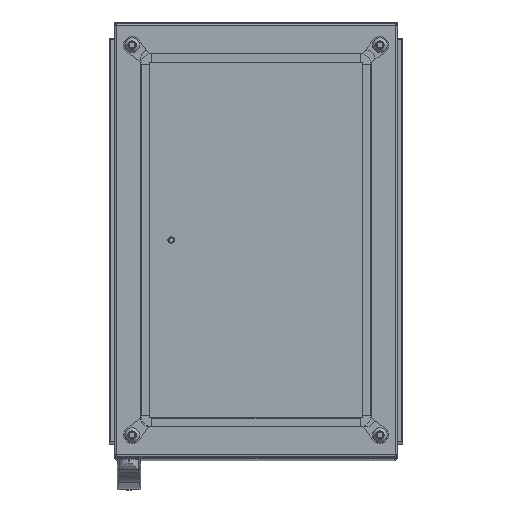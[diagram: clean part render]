
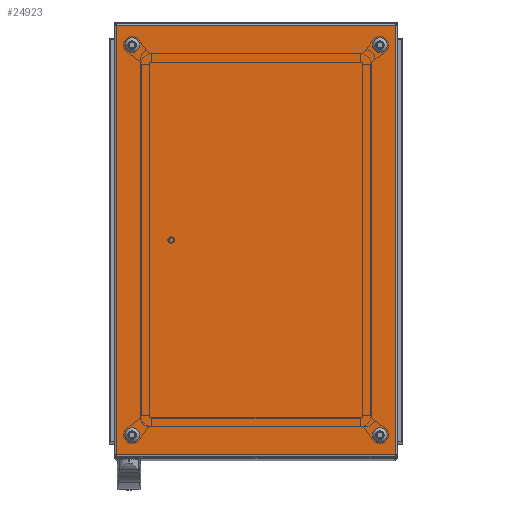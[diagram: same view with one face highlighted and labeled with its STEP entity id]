
A CAD part, top view. The second image highlights one B-rep face of the part: STEP entity #24923.
In plain terms, the highlighted planar face has unit normal (0, 0, 1).
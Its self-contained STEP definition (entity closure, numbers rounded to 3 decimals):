
#1271=CIRCLE('',#26818,6.);
#1272=CIRCLE('',#26819,6.);
#1273=CIRCLE('',#26820,6.);
#1274=CIRCLE('',#26821,6.);
#4899=ORIENTED_EDGE('',*,*,#10717,.F.);
#4900=ORIENTED_EDGE('',*,*,#10718,.F.);
#4901=ORIENTED_EDGE('',*,*,#10719,.F.);
#4902=ORIENTED_EDGE('',*,*,#10720,.F.);
#4903=ORIENTED_EDGE('',*,*,#10706,.T.);
#4904=ORIENTED_EDGE('',*,*,#10714,.T.);
#4905=ORIENTED_EDGE('',*,*,#10677,.F.);
#4906=ORIENTED_EDGE('',*,*,#10721,.F.);
#10677=EDGE_CURVE('',#13821,#13822,#16301,.T.);
#10706=EDGE_CURVE('',#13843,#13842,#16307,.T.);
#10714=EDGE_CURVE('',#13842,#13822,#16312,.T.);
#10717=EDGE_CURVE('',#13844,#13844,#1271,.T.);
#10718=EDGE_CURVE('',#13845,#13845,#1272,.T.);
#10719=EDGE_CURVE('',#13846,#13846,#1273,.T.);
#10720=EDGE_CURVE('',#13847,#13847,#1274,.T.);
#10721=EDGE_CURVE('',#13843,#13821,#16315,.T.);
#13821=VERTEX_POINT('',#39099);
#13822=VERTEX_POINT('',#39101);
#13842=VERTEX_POINT('',#39175);
#13843=VERTEX_POINT('',#39177);
#13844=VERTEX_POINT('',#39194);
#13845=VERTEX_POINT('',#39196);
#13846=VERTEX_POINT('',#39198);
#13847=VERTEX_POINT('',#39200);
#16301=LINE('',#39100,#18486);
#16307=LINE('',#39176,#18492);
#16312=LINE('',#39188,#18497);
#16315=LINE('',#39201,#18500);
#18486=VECTOR('',#31368,1000.);
#18492=VECTOR('',#31422,1000.);
#18497=VECTOR('',#31439,1000.);
#18500=VECTOR('',#31454,1000.);
#20369=EDGE_LOOP('',(#4899));
#20370=EDGE_LOOP('',(#4900));
#20371=EDGE_LOOP('',(#4901));
#20372=EDGE_LOOP('',(#4902));
#20373=EDGE_LOOP('',(#4903,#4904,#4905,#4906));
#22380=FACE_BOUND('',#20369,.T.);
#22381=FACE_BOUND('',#20370,.T.);
#22382=FACE_BOUND('',#20371,.T.);
#22383=FACE_BOUND('',#20372,.T.);
#22384=FACE_BOUND('',#20373,.T.);
#24048=PLANE('',#26817);
#24923=ADVANCED_FACE('',(#22380,#22381,#22382,#22383,#22384),#24048,.T.);
#26817=AXIS2_PLACEMENT_3D('',#39192,#31444,#31445);
#26818=AXIS2_PLACEMENT_3D('',#39193,#31446,#31447);
#26819=AXIS2_PLACEMENT_3D('',#39195,#31448,#31449);
#26820=AXIS2_PLACEMENT_3D('',#39197,#31450,#31451);
#26821=AXIS2_PLACEMENT_3D('',#39199,#31452,#31453);
#31368=DIRECTION('',(-1.,0.,0.));
#31422=DIRECTION('',(-1.,0.,0.));
#31439=DIRECTION('',(0.,-1.,0.));
#31444=DIRECTION('',(0.,0.,1.));
#31445=DIRECTION('',(1.,0.,0.));
#31446=DIRECTION('',(0.,0.,1.));
#31447=DIRECTION('',(1.,0.,0.));
#31448=DIRECTION('',(0.,0.,1.));
#31449=DIRECTION('',(1.,0.,0.));
#31450=DIRECTION('',(0.,0.,1.));
#31451=DIRECTION('',(1.,0.,0.));
#31452=DIRECTION('',(0.,0.,1.));
#31453=DIRECTION('',(1.,0.,0.));
#31454=DIRECTION('',(0.,-1.,0.));
#39099=CARTESIAN_POINT('',(196.5,-302.5,20.));
#39100=CARTESIAN_POINT('',(200.,-302.5,20.));
#39101=CARTESIAN_POINT('',(-196.5,-302.5,20.));
#39175=CARTESIAN_POINT('',(-196.5,302.5,20.));
#39176=CARTESIAN_POINT('',(200.,302.5,20.));
#39177=CARTESIAN_POINT('',(196.5,302.5,20.));
#39188=CARTESIAN_POINT('',(-196.5,305.5,20.));
#39192=CARTESIAN_POINT('',(-196.5,-302.5,20.));
#39193=CARTESIAN_POINT('',(174.5,-274.5,20.));
#39194=CARTESIAN_POINT('',(180.5,-274.5,20.));
#39195=CARTESIAN_POINT('',(-174.5,274.5,20.));
#39196=CARTESIAN_POINT('',(-168.5,274.5,20.));
#39197=CARTESIAN_POINT('',(174.5,274.5,20.));
#39198=CARTESIAN_POINT('',(180.5,274.5,20.));
#39199=CARTESIAN_POINT('',(-174.5,-274.5,20.));
#39200=CARTESIAN_POINT('',(-168.5,-274.5,20.));
#39201=CARTESIAN_POINT('',(196.5,305.5,20.));
